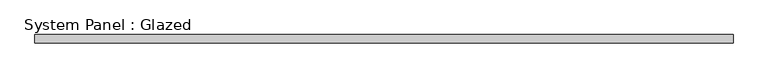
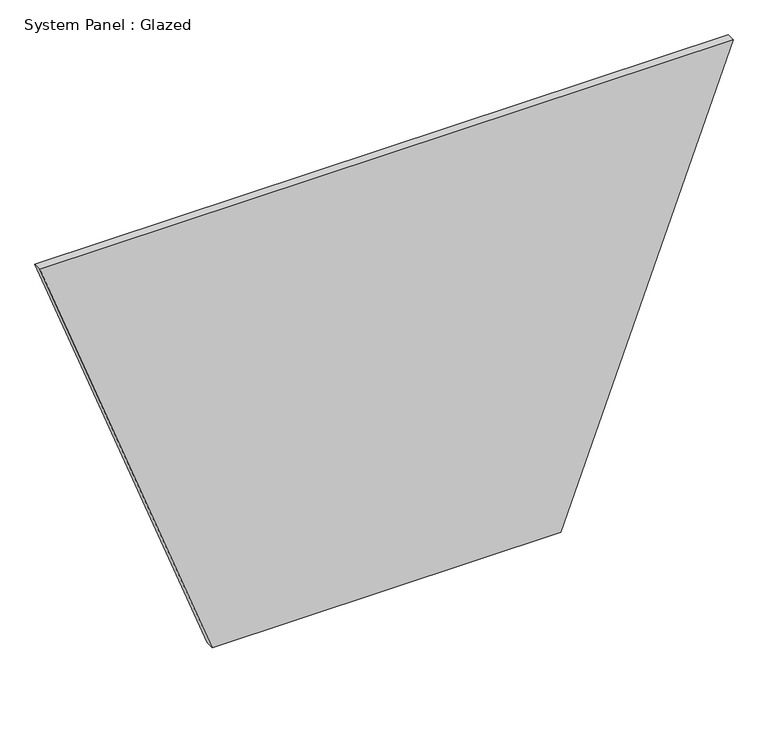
"""IFC4 building model written with IfcOpenShell, lengths in millimetres: plate geometry, System Panel : Glazed."""

import ifcopenshell
import ifcopenshell.guid

model = None  # the IFC model being written
_history = None  # IfcOwnerHistory: only IFC2X3 demands one
_inside = {}  # id of a spatial element -> (the spatial element, [elements in it])
_under = {}  # id of a project, library or spatial element -> (it, [spatial elements below it])
_declared = {}  # id of a project -> (the project, [libraries it declares])
_typed = {}  # id of a type object -> (the type object, [elements of that type])
_made_of = {}  # id of a material, layer set ... -> (it, [elements and type objects made of it])


def new_model(schema):
    """Start an empty IFC model of exactly this schema.

    Asked for "IFC4X3", IfcOpenShell would pick the latest addendum, in which some entities
    have other attributes; the version numbers below select the first issue.
    IFC2X3 requires an IfcOwnerHistory on every rooted entity: one is made here for all.
    """
    global model, _history
    if schema == "IFC4X3":
        model = ifcopenshell.file(schema_version=(4, 3, 0, 0))
    else:
        model = ifcopenshell.file(schema=schema)
    _inside.clear()
    _under.clear()
    _declared.clear()
    _typed.clear()
    _made_of.clear()
    _history = None
    if model.schema == "IFC2X3":
        org = make("IfcOrganization", Name="unknown")
        user = make(
            "IfcPersonAndOrganization",
            ThePerson=make("IfcPerson", FamilyName="unknown"),
            TheOrganization=org,
        )
        app = make(
            "IfcApplication",
            ApplicationDeveloper=org,
            Version="unknown",
            ApplicationFullName="unknown",
            ApplicationIdentifier="unknown",
        )
        _history = make(
            "IfcOwnerHistory",
            OwningUser=user,
            OwningApplication=app,
            ChangeAction="ADDED",
            CreationDate=0,
        )
    return model


def make(cls, **values):
    """One entity of the class cls with the attributes given. An attribute that is None is left unset."""
    return model.create_entity(
        cls, **{name: value for name, value in values.items() if value is not None}
    )


def rooted(cls, **values):
    """An entity with a GlobalId (a new one), such as an element, a storey or a relation."""
    return make(cls, GlobalId=ifcopenshell.guid.new(), OwnerHistory=_history, **values)


def si_unit(unit_type, name, prefix=None):
    """IfcSIUnit, for example si_unit("LENGTHUNIT", "METRE", prefix="MILLI")."""
    return make("IfcSIUnit", UnitType=unit_type, Prefix=prefix, Name=name)


def assignment(units):
    """IfcUnitAssignment: the units of a project."""
    return None if units is None else make("IfcUnitAssignment", Units=units)


def point(xyz):
    """IfcCartesianPoint."""
    return None if xyz is None else make("IfcCartesianPoint", Coordinates=xyz)


def direction(xyz):
    """IfcDirection."""
    return None if xyz is None else make("IfcDirection", DirectionRatios=xyz)


def frame(location, z_axis=None, x_axis=None):
    """IfcAxis2Placement3D, a coordinate frame: its origin and axes. An axis left out is left unset."""
    return make(
        "IfcAxis2Placement3D",
        Location=point(location),
        Axis=direction(z_axis),
        RefDirection=direction(x_axis),
    )


def origin():
    """The frame at (0, 0, 0) with its axes left unset."""
    return frame((0.0, 0.0, 0.0))


def place(relative_to, where):
    """IfcLocalPlacement: puts the frame where relative to a parent placement (None: the world)."""
    return make(
        "IfcLocalPlacement", PlacementRelTo=relative_to, RelativePlacement=where
    )


def context(
    kind, dimensions, precision=None, world=None, true_north=None, identifier=None
):
    """IfcGeometricRepresentationContext, for example the 3D "Model" context."""
    return make(
        "IfcGeometricRepresentationContext",
        ContextIdentifier=identifier,
        ContextType=kind,
        CoordinateSpaceDimension=dimensions,
        Precision=precision,
        WorldCoordinateSystem=world,
        TrueNorth=true_north,
    )


def project(units=None, contexts=None):
    """IfcProject with its units and contexts."""
    return rooted(
        "IfcProject",
        Name="project",
        RepresentationContexts=contexts,
        UnitsInContext=assignment(units),
    )


def spatial(cls, under=None, at=None, **own):
    """A site, building, storey or space (cls), placed at a placement, below another one or the project."""
    s = rooted(cls, ObjectPlacement=at, **own)
    if under is not None:
        _under.setdefault(under.id(), (under, []))[1].append(s)
    return s


def polyline(points):
    """IfcPolyline through the points."""
    return make("IfcPolyline", Points=[point(p) for p in points])


def outline(outer, holes=None, kind="AREA"):
    """IfcArbitraryClosedProfileDef: a profile drawn as a closed curve; with holes, ...WithVoids."""
    if holes is None:
        return make("IfcArbitraryClosedProfileDef", ProfileType=kind, OuterCurve=outer)
    return make(
        "IfcArbitraryProfileDefWithVoids",
        ProfileType=kind,
        OuterCurve=outer,
        InnerCurves=holes,
    )


def extrude(swept, where, along, depth):
    """IfcExtrudedAreaSolid: the profile swept, set in the frame where, extruded along a direction by depth."""
    return make(
        "IfcExtrudedAreaSolid",
        SweptArea=swept,
        Position=where,
        ExtrudedDirection=direction(along),
        Depth=depth,
    )


def shape(context_of_items, identifier, shape_type, items):
    """IfcShapeRepresentation: the items that make up one representation, for example the "Body"."""
    return make(
        "IfcShapeRepresentation",
        ContextOfItems=context_of_items,
        RepresentationIdentifier=identifier,
        RepresentationType=shape_type,
        Items=items,
    )


def source(mapping_origin, context_of_items, identifier, shape_type, items):
    """IfcRepresentationMap: a shape defined once, which mapped items show again and again."""
    return make(
        "IfcRepresentationMap",
        MappingOrigin=mapping_origin,
        MappedRepresentation=shape(context_of_items, identifier, shape_type, items),
    )


def transform(
    local_origin,
    x_axis=None,
    y_axis=None,
    z_axis=None,
    scale=None,
    scale2=None,
    scale3=None,
    uniform=True,
):
    """IfcCartesianTransformationOperator3D, or its non-uniform kind. x_axis, y_axis, z_axis: its Axis1, 2, 3."""
    if uniform:
        return make(
            "IfcCartesianTransformationOperator3D",
            Axis1=direction(x_axis),
            Axis2=direction(y_axis),
            LocalOrigin=point(local_origin),
            Scale=scale,
            Axis3=direction(z_axis),
        )
    return make(
        "IfcCartesianTransformationOperator3DnonUniform",
        Axis1=direction(x_axis),
        Axis2=direction(y_axis),
        LocalOrigin=point(local_origin),
        Scale=scale,
        Axis3=direction(z_axis),
        Scale2=scale2,
        Scale3=scale3,
    )


def mapped(mapping_source, mapping_target):
    """IfcMappedItem: shows the shape of a source again, moved by a transform."""
    return make(
        "IfcMappedItem", MappingSource=mapping_source, MappingTarget=mapping_target
    )


def made_of(thing, what):
    """Note that an element or type object is made of a material, layer set ...; save() writes the relation."""
    if what is not None:
        _made_of.setdefault(what.id(), (what, []))[1].append(thing)
    return thing


def element(
    cls,
    number,
    at=None,
    inside=None,
    cuts=None,
    type_object=None,
    material=None,
    context=None,
    identifier="Body",
    shape_type=None,
    held_by="IfcProductDefinitionShape",
    body=None,
    shapes=None,
    **own,
):
    """One element of the class cls, such as IfcWall. Its Tag is "e" and its number.

    at: its placement. inside: the storey or other place that contains it. cuts: it is an
    opening in that element (IfcRelVoidsElement). A single representation is given by context,
    identifier, shape_type and body (its items); several are given by shapes. held_by: the class
    of the entity that holds the representations. save() writes the other relations.
    """
    e = rooted(cls, Tag="e%d" % number, ObjectPlacement=at, **own)
    if body is not None:
        shapes = [shape(context, identifier, shape_type, body)]
    if shapes is not None:
        e.Representation = make(held_by, Representations=shapes)
    if inside is not None:
        _inside.setdefault(inside.id(), (inside, []))[1].append(e)
    if cuts is not None:
        rooted(
            "IfcRelVoidsElement", RelatingBuildingElement=cuts, RelatedOpeningElement=e
        )
    if type_object is not None:
        _typed.setdefault(type_object.id(), (type_object, []))[1].append(e)
    return made_of(e, material)


def aggregate(whole, parts):
    """IfcRelAggregates: a whole, such as a stair, and the parts it consists of."""
    return rooted("IfcRelAggregates", RelatingObject=whole, RelatedObjects=parts)


def save(model, path):
    """Write the relations noted so far, then the file.

    IfcRelAggregates (storeys below a building ...), IfcRelContainedInSpatialStructure (elements
    in a storey), IfcRelDefinesByType, IfcRelAssociatesMaterial and IfcRelDeclares: one each for
    every whole, place, type object, material and project.
    """
    for whole, parts in _under.values():
        aggregate(whole, parts)
    for where, things in _inside.values():
        rooted(
            "IfcRelContainedInSpatialStructure",
            RelatedElements=things,
            RelatingStructure=where,
        )
    for kind, things in _typed.values():
        rooted("IfcRelDefinesByType", RelatedObjects=things, RelatingType=kind)
    for what, things in _made_of.values():
        rooted("IfcRelAssociatesMaterial", RelatedObjects=things, RelatingMaterial=what)
    for by, libraries in _declared.values():
        rooted("IfcRelDeclares", RelatingContext=by, RelatedDefinitions=libraries)
    model.write(path)


def system_panel_glazed_37e80246(model_context):
    return source(origin(), model_context, "Body", "SweptSolid", [
        extrude(outline(polyline([(0.0, -513.3785101), (0.0, 513.3785101), (1354.949133, 1020.1471108), (1354.949133, -1020.1471108), (0.0, -513.3785101)])), frame((0.0, -49.5, 0.0), z_axis=(0.0, 1.0, 0.0), x_axis=(0.0, 0.0, 1.0)), (0.0, 0.0, 1.0), 25.0),
    ])


if __name__ == "__main__":
    model = new_model("IFC4")
    model_context = context("Model", 3, world=origin())
    ifc_project = project(units=[si_unit("LENGTHUNIT", "METRE", prefix="MILLI")], contexts=[model_context])
    site = spatial("IfcSite", under=ifc_project)
    building = spatial("IfcBuilding", under=site)
    placement = place(None, origin())
    system_panel_glazed_shape = system_panel_glazed_37e80246(model_context)
    element("IfcPlate", 1, ObjectType="System Panel : Glazed", at=placement, inside=building, context=model_context, shape_type="MappedRepresentation", body=[
        mapped(system_panel_glazed_shape, transform((0.0, 0.0, 0.0), x_axis=(1.0, 0.0, 0.0), y_axis=(0.0, 1.0, 0.0), z_axis=(0.0, 0.0, 1.0))),
    ])
    save(model, "model.ifc")
